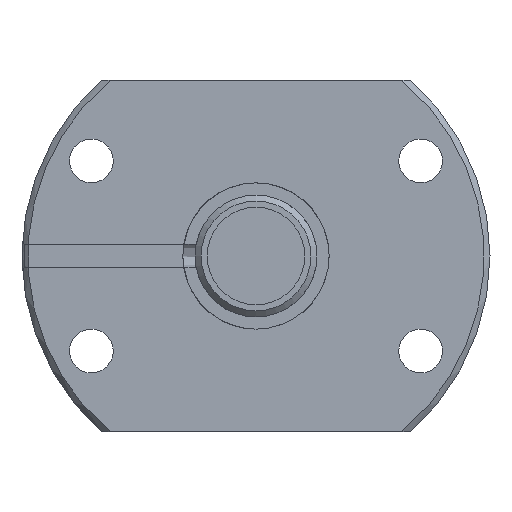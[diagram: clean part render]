
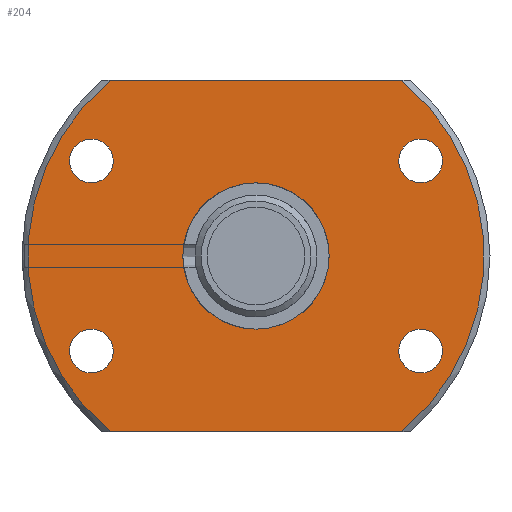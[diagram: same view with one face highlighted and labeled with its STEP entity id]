
A CAD part, left-side view. The second image highlights one B-rep face of the part: STEP entity #204.
In plain terms, the highlighted planar face has unit normal (-1, 0, 0).
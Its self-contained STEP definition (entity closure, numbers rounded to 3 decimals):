
#204 = ADVANCED_FACE( '', ( #311, #312, #313, #314, #315, #316 ), #317, .T. );
#311 = FACE_BOUND( '', #427, .T. );
#312 = FACE_OUTER_BOUND( '', #428, .T. );
#313 = FACE_BOUND( '', #429, .T. );
#314 = FACE_BOUND( '', #430, .T. );
#315 = FACE_BOUND( '', #431, .T. );
#316 = FACE_BOUND( '', #432, .T. );
#317 = PLANE( '', #433 );
#427 = EDGE_LOOP( '', ( #642 ) );
#428 = EDGE_LOOP( '', ( #643, #644, #645, #646 ) );
#429 = EDGE_LOOP( '', ( #647 ) );
#430 = EDGE_LOOP( '', ( #648 ) );
#431 = EDGE_LOOP( '', ( #649 ) );
#432 = EDGE_LOOP( '', ( #650 ) );
#433 = AXIS2_PLACEMENT_3D( '', #651, #652, #653 );
#642 = ORIENTED_EDGE( '', *, *, #718, .T. );
#643 = ORIENTED_EDGE( '', *, *, #738, .F. );
#644 = ORIENTED_EDGE( '', *, *, #703, .F. );
#645 = ORIENTED_EDGE( '', *, *, #709, .F. );
#646 = ORIENTED_EDGE( '', *, *, #739, .F. );
#647 = ORIENTED_EDGE( '', *, *, #695, .T. );
#648 = ORIENTED_EDGE( '', *, *, #697, .T. );
#649 = ORIENTED_EDGE( '', *, *, #699, .T. );
#650 = ORIENTED_EDGE( '', *, *, #701, .T. );
#651 = CARTESIAN_POINT( '', ( 0., 46.8, 0. ) );
#652 = DIRECTION( '', ( -1., 0., 0. ) );
#653 = DIRECTION( '', ( 0., 0., 1. ) );
#695 = EDGE_CURVE( '', #771, #771, #772, .T. );
#697 = EDGE_CURVE( '', #775, #775, #776, .T. );
#699 = EDGE_CURVE( '', #779, #779, #780, .T. );
#701 = EDGE_CURVE( '', #783, #783, #784, .T. );
#703 = EDGE_CURVE( '', #785, #788, #789, .T. );
#709 = EDGE_CURVE( '', #798, #785, #800, .T. );
#718 = EDGE_CURVE( '', #815, #815, #816, .T. );
#738 = EDGE_CURVE( '', #788, #849, #850, .T. );
#739 = EDGE_CURVE( '', #849, #798, #851, .T. );
#771 = VERTEX_POINT( '', #944 );
#772 = CIRCLE( '', #945, 4.5 );
#775 = VERTEX_POINT( '', #948 );
#776 = CIRCLE( '', #949, 4.5 );
#779 = VERTEX_POINT( '', #952 );
#780 = CIRCLE( '', #953, 4.5 );
#783 = VERTEX_POINT( '', #956 );
#784 = CIRCLE( '', #957, 4.5 );
#785 = VERTEX_POINT( '', #958 );
#788 = VERTEX_POINT( '', #964 );
#789 = CIRCLE( '', #965, 46.8 );
#798 = VERTEX_POINT( '', #981 );
#800 = LINE( '', #986, #987 );
#815 = VERTEX_POINT( '', #1041 );
#816 = CIRCLE( '', #1042, 15. );
#849 = VERTEX_POINT( '', #1114 );
#850 = LINE( '', #1115, #1116 );
#851 = CIRCLE( '', #1117, 46.8 );
#944 = CARTESIAN_POINT( '', ( 0., 33.775, -24. ) );
#945 = AXIS2_PLACEMENT_3D( '', #1164, #1165, #1166 );
#948 = CARTESIAN_POINT( '', ( 0., -33.775, -24. ) );
#949 = AXIS2_PLACEMENT_3D( '', #1170, #1171, #1172 );
#952 = CARTESIAN_POINT( '', ( 0., -33.775, 15. ) );
#953 = AXIS2_PLACEMENT_3D( '', #1176, #1177, #1178 );
#956 = CARTESIAN_POINT( '', ( 0., 33.775, 15. ) );
#957 = AXIS2_PLACEMENT_3D( '', #1182, #1183, #1184 );
#958 = CARTESIAN_POINT( '', ( 0., 29.904, -36. ) );
#964 = CARTESIAN_POINT( '', ( 0., 29.904, 36. ) );
#965 = AXIS2_PLACEMENT_3D( '', #1185, #1186, #1187 );
#981 = CARTESIAN_POINT( '', ( 0., -29.904, -36. ) );
#986 = CARTESIAN_POINT( '', ( 0., -48.1, -36. ) );
#987 = VECTOR( '', #1192, 1000. );
#1041 = CARTESIAN_POINT( '', ( 0., 0., -15. ) );
#1042 = AXIS2_PLACEMENT_3D( '', #1204, #1205, #1206 );
#1114 = CARTESIAN_POINT( '', ( 0., -29.904, 36. ) );
#1115 = CARTESIAN_POINT( '', ( 0., 48.1, 36. ) );
#1116 = VECTOR( '', #1248, 1000. );
#1117 = AXIS2_PLACEMENT_3D( '', #1249, #1250, #1251 );
#1164 = CARTESIAN_POINT( '', ( 0., 33.775, -19.5 ) );
#1165 = DIRECTION( '', ( 1., 0., 0. ) );
#1166 = DIRECTION( '', ( 0., 0., -1. ) );
#1170 = CARTESIAN_POINT( '', ( 0., -33.775, -19.5 ) );
#1171 = DIRECTION( '', ( 1., 0., 0. ) );
#1172 = DIRECTION( '', ( 0., 0., -1. ) );
#1176 = CARTESIAN_POINT( '', ( 0., -33.775, 19.5 ) );
#1177 = DIRECTION( '', ( 1., 0., 0. ) );
#1178 = DIRECTION( '', ( 0., 0., -1. ) );
#1182 = CARTESIAN_POINT( '', ( 0., 33.775, 19.5 ) );
#1183 = DIRECTION( '', ( 1., 0., 0. ) );
#1184 = DIRECTION( '', ( 0., 0., -1. ) );
#1185 = CARTESIAN_POINT( '', ( 0., 0., 0. ) );
#1186 = DIRECTION( '', ( 1., 0., 0. ) );
#1187 = DIRECTION( '', ( 0., 0., -1. ) );
#1192 = DIRECTION( '', ( 0., 1., 0. ) );
#1204 = CARTESIAN_POINT( '', ( 0., 0., 0. ) );
#1205 = DIRECTION( '', ( 1., 0., 0. ) );
#1206 = DIRECTION( '', ( 0., 0., -1. ) );
#1248 = DIRECTION( '', ( 0., -1., 0. ) );
#1249 = CARTESIAN_POINT( '', ( 0., 0., 0. ) );
#1250 = DIRECTION( '', ( 1., 0., 0. ) );
#1251 = DIRECTION( '', ( 0., 0., -1. ) );
